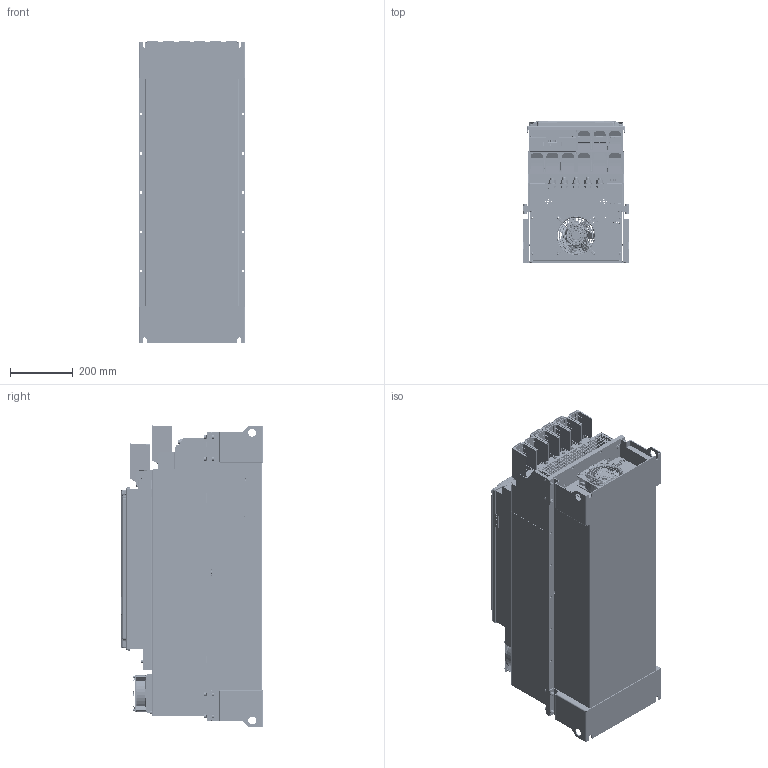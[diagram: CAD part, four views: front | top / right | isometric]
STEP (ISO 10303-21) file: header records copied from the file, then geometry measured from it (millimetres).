
FILE_DESCRIPTION (( 'STEP AP203' ), '1' );
FILE_NAME ('P0F5T00-0000 KEB-COMBIVERT.STEP', '2009-09-10T08:14:56', ( 'KEB' ), ( 'Karl E. Brinkmann GmbH' ), 'SwSTEP 2.0', 'SolidWorks 2007', '' );
FILE_SCHEMA (( 'CONFIG_CONTROL_DESIGN' ));
Products named in the file (2): P0F5T00-0000 KEB-COMBIVERT.sldasm-Part-1_Standard; P0F5T00-0000 KEB-COMBIVERT
Assembly tree (1 placements, depth 2):
  P0F5T00-0000 KEB-COMBIVERT
    P0F5T00-0000 KEB-COMBIVERT.sldasm-Part-1_Standard
Bounding box: 340 x 453 x 963.72 mm (x, y, z)
Surface area: 8324675.5 mm2 (no closed solid volume)
Topology: 0 solids, 1015 shells, 5884 faces, 30123 edges, 24661 vertices
Faces by surface type: plane 3173, cylinder 1443, torus 443, bspline 428, cone 340, sphere 57
Entity records: 353410 total; most frequent: CARTESIAN_POINT 126565, DIRECTION 44082, ORIENTED_EDGE 38862, EDGE_CURVE 30111, VERTEX_POINT 24661, VECTOR 18962, LINE 18962, AXIS2_PLACEMENT_3D 12560
